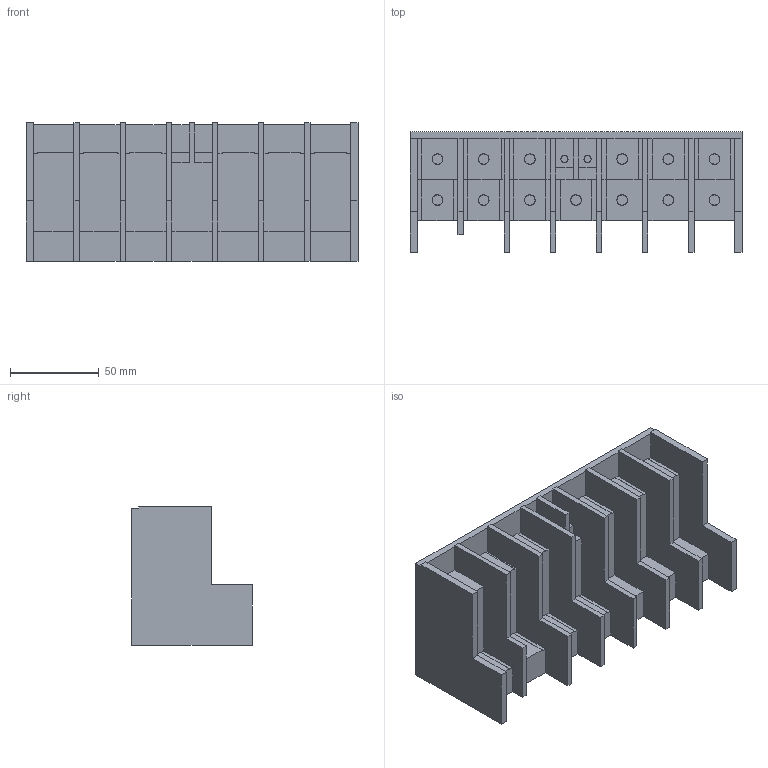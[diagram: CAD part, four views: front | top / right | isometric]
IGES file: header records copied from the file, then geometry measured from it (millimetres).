
Start section:  PTC IGES file: j3-11-15k-te.igs
Global section: file name: j3-11-15k-te.igs; native system: Pro/ENGINEER by Parametric Technology Corporation; preprocessor: 2006420; author: JE18792; organization: Unknown; date: 20101129.152227; units: millimetre
Bounding box: 187 x 68 x 78 mm (x, y, z)
Volume: 443679.4 mm3; surface area: 91829.3 mm2
Topology: 1 solids, 1 shells, 189 faces, 500 edges, 328 vertices
Faces by surface type: bspline 189
